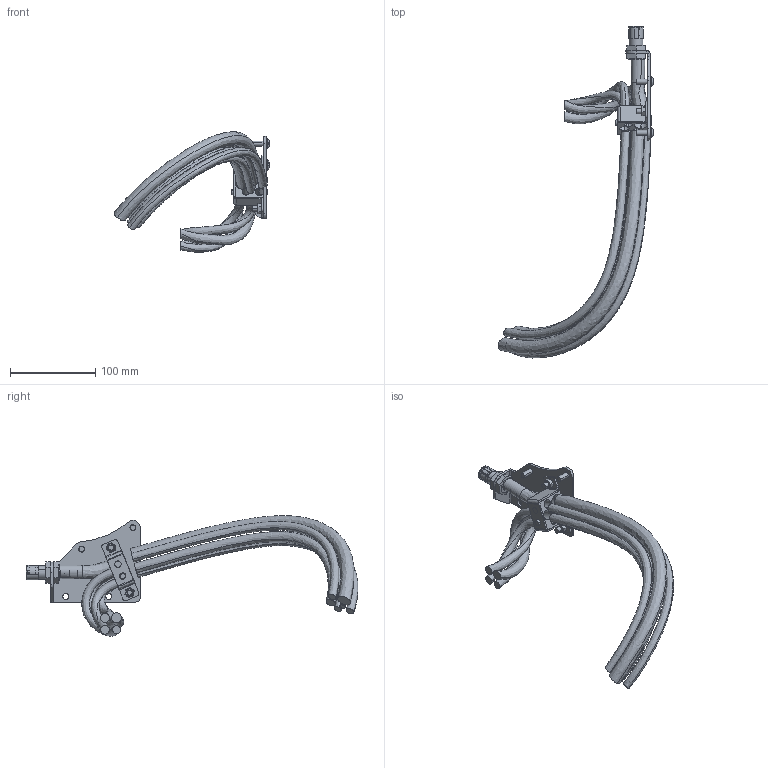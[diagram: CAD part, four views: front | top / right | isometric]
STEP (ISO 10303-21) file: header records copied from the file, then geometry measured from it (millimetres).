
FILE_DESCRIPTION (( 'STEP AP214' ), '1' );
FILE_NAME ('IRB2600_12_165_cables_link3_CAD_00.STEP', '2012-11-20T15:24:22', ( 'ABB' ), ( 'ABB' ), 'SwSTEP 2.0', 'SolidWorks 2010', '' );
FILE_SCHEMA (( 'AUTOMOTIVE_DESIGN' ));
Length unit declared in the file: millimetre
Products named in the file (1): IRB2600_12_165_cables_link3_CAD_00
Bounding box: 181.96 x 388.51 x 141.18 mm (x, y, z)
Volume: 309512.3 mm3; surface area: 138357.3 mm2
Topology: 21 solids, 21 shells, 395 faces, 946 edges, 600 vertices
Faces by surface type: plane 142, cylinder 139, torus 46, cone 34, bspline 28, sphere 6
Entity records: 16087 total; most frequent: CARTESIAN_POINT 6745, DIRECTION 1894, ORIENTED_EDGE 1868, EDGE_CURVE 934, AXIS2_PLACEMENT_3D 764, VERTEX_POINT 594, EDGE_LOOP 464, CIRCLE 396
